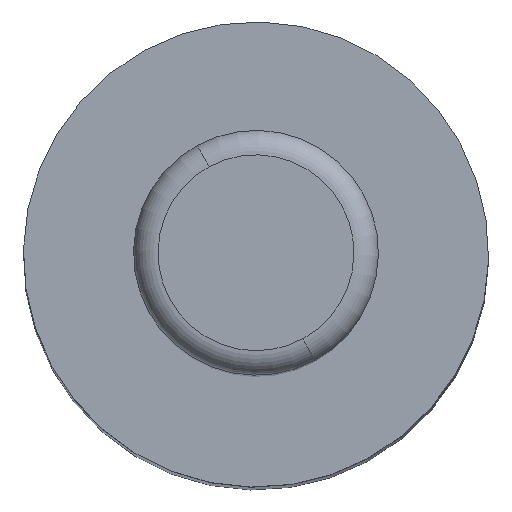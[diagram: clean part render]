
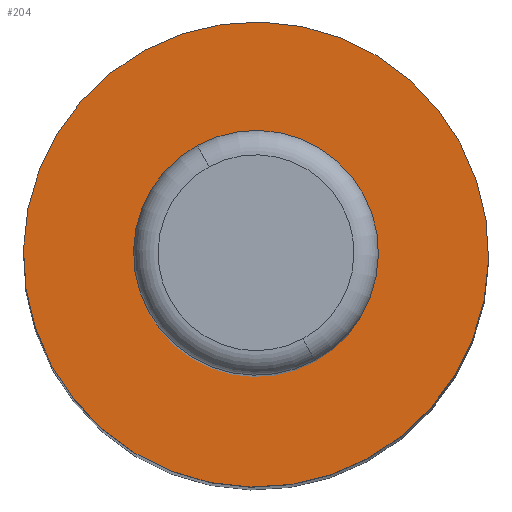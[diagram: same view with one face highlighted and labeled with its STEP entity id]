
A CAD part, top view. The second image highlights one B-rep face of the part: STEP entity #204.
In plain terms, the highlighted planar face has unit normal (0, 0, 1).
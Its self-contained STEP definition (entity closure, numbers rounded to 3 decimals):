
#181=CARTESIAN_POINT('Axis2P3D Location',(47.5,0.,342.)) ;
#186=CARTESIAN_POINT('Axis2P3D Location',(0.,0.,342.)) ;
#190=CARTESIAN_POINT('Vertex',(41.685,22.773,342.)) ;
#192=CARTESIAN_POINT('Vertex',(-41.685,-22.773,342.)) ;
#195=CARTESIAN_POINT('Axis2P3D Location',(0.,0.,342.)) ;
#182=DIRECTION('Axis2P3D Direction',(0.,0.,1.)) ;
#183=DIRECTION('Axis2P3D XDirection',(1.,0.,0.)) ;
#187=DIRECTION('Axis2P3D Direction',(0.,0.,1.)) ;
#196=DIRECTION('Axis2P3D Direction',(0.,0.,1.)) ;
#184=AXIS2_PLACEMENT_3D('Plane Axis2P3D',#181,#182,#183) ;
#188=AXIS2_PLACEMENT_3D('Circle Axis2P3D',#186,#187,$) ;
#197=AXIS2_PLACEMENT_3D('Circle Axis2P3D',#195,#196,$) ;
#201=ORIENTED_EDGE('',*,*,#194,.T.) ;
#202=ORIENTED_EDGE('',*,*,#199,.T.) ;
#204=ADVANCED_FACE('',(#203),#185,.T.) ;
#189=CIRCLE('generated circle',#188,47.5) ;
#198=CIRCLE('generated circle',#197,47.5) ;
#194=EDGE_CURVE('',#191,#193,#189,.T.) ;
#199=EDGE_CURVE('',#193,#191,#198,.T.) ;
#200=EDGE_LOOP('',(#201,#202)) ;
#203=FACE_OUTER_BOUND('',#200,.T.) ;
#185=PLANE('Plane',#184) ;
#191=VERTEX_POINT('',#190) ;
#193=VERTEX_POINT('',#192) ;
